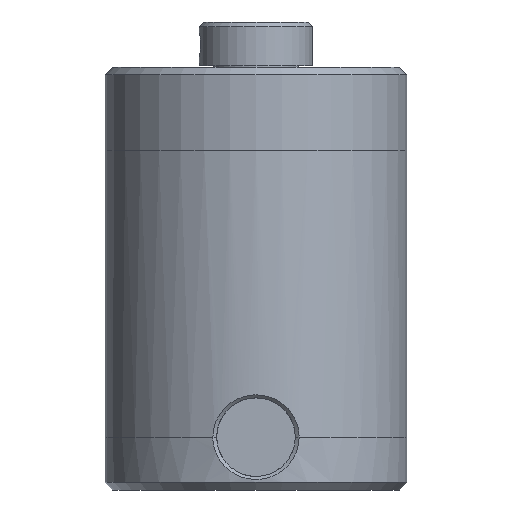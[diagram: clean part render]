
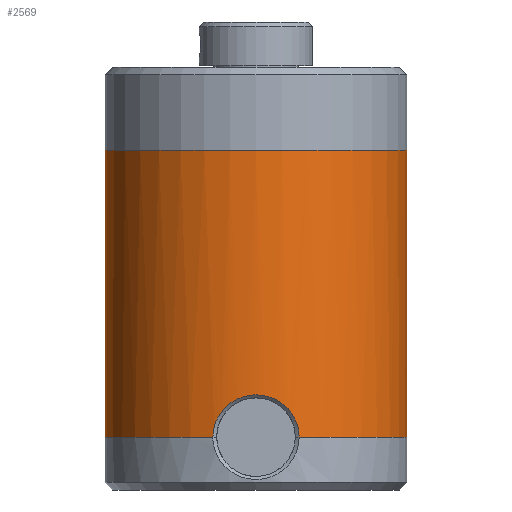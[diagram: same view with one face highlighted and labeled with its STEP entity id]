
A CAD part, front view. The second image highlights one B-rep face of the part: STEP entity #2569.
In plain terms, the highlighted cylindrical face has radius 10 mm (diameter 20 mm), a partial arc.
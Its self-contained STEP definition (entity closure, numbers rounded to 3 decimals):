
#12 = CARTESIAN_POINT ( 'NONE',  ( 1.012, -9.949, -24.88 ) ) ;
#168 = CARTESIAN_POINT ( 'NONE',  ( 2.784, -9.605, -26.863 ) ) ;
#307 = CARTESIAN_POINT ( 'NONE',  ( 10., 0., -27.5 ) ) ;
#359 = CARTESIAN_POINT ( 'NONE',  ( 0., 0., -27.5 ) ) ;
#447 = CARTESIAN_POINT ( 'NONE',  ( -1.889, -9.821, -25.391 ) ) ;
#568 = CARTESIAN_POINT ( 'NONE',  ( -10., 0., -8.5 ) ) ;
#611 = CARTESIAN_POINT ( 'NONE',  ( 0., 0., -27.5 ) ) ;
#615 = CARTESIAN_POINT ( 'NONE',  ( 2.857, -9.583, -27.316 ) ) ;
#747 = CIRCLE ( 'NONE', #4083, 10. ) ;
#789 = DIRECTION ( 'NONE',  ( -1., 0., 0. ) ) ;
#794 = ORIENTED_EDGE ( 'NONE', *, *, #1060, .T. ) ;
#815 = ORIENTED_EDGE ( 'NONE', *, *, #1294, .T. ) ;
#864 = FACE_OUTER_BOUND ( 'NONE', #2947, .T. ) ;
#867 = DIRECTION ( 'NONE',  ( 0., 0., -1. ) ) ;
#886 = CARTESIAN_POINT ( 'NONE',  ( -1.434, -9.898, -25.071 ) ) ;
#930 = EDGE_CURVE ( 'NONE', #1347, #5056, #4386, .T. ) ;
#1007 = ORIENTED_EDGE ( 'NONE', *, *, #1283, .T. ) ;
#1033 = CARTESIAN_POINT ( 'NONE',  ( 1.27, -9.921, -24.985 ) ) ;
#1060 = EDGE_CURVE ( 'NONE', #4040, #2689, #5440, .T. ) ;
#1114 = EDGE_CURVE ( 'NONE', #2426, #1347, #747, .T. ) ;
#1138 = EDGE_CURVE ( 'NONE', #4040, #3923, #5302, .T. ) ;
#1283 = EDGE_CURVE ( 'NONE', #2689, #5056, #2654, .T. ) ;
#1294 = EDGE_CURVE ( 'NONE', #2426, #3923, #5365, .T. ) ;
#1318 = CARTESIAN_POINT ( 'NONE',  ( -2.857, -9.583, -27.5 ) ) ;
#1331 = CARTESIAN_POINT ( 'NONE',  ( -0.749, -9.978, -24.773 ) ) ;
#1347 = VERTEX_POINT ( 'NONE', #2984 ) ;
#1391 = DIRECTION ( 'NONE',  ( 0., 0., 1. ) ) ;
#1470 = CARTESIAN_POINT ( 'NONE',  ( 1.745, -9.848, -25.275 ) ) ;
#1674 = DIRECTION ( 'NONE',  ( 0., 0., -1. ) ) ;
#1751 = CARTESIAN_POINT ( 'NONE',  ( -2.839, -9.589, -27.134 ) ) ;
#1771 = CARTESIAN_POINT ( 'NONE',  ( 0.189, -10., -24.7 ) ) ;
#1903 = VECTOR ( 'NONE', #2757, 1000. ) ;
#1923 = CARTESIAN_POINT ( 'NONE',  ( 2.284, -9.739, -25.778 ) ) ;
#2153 = AXIS2_PLACEMENT_3D ( 'NONE', #611, #5487, #5038 ) ;
#2212 = CARTESIAN_POINT ( 'NONE',  ( -2.71, -9.626, -26.594 ) ) ;
#2227 = CARTESIAN_POINT ( 'NONE',  ( 0.652, -9.979, -24.772 ) ) ;
#2363 = CARTESIAN_POINT ( 'NONE',  ( 2.674, -9.636, -26.51 ) ) ;
#2426 = VERTEX_POINT ( 'NONE', #4966 ) ;
#2569 = ADVANCED_FACE ( 'NONE', ( #864 ), #4252, .T. ) ;
#2635 = CARTESIAN_POINT ( 'NONE',  ( -2.477, -9.689, -26.093 ) ) ;
#2653 = CARTESIAN_POINT ( 'NONE',  ( 0.922, -9.958, -24.848 ) ) ;
#2654 = CIRCLE ( 'NONE', #3849, 10. ) ;
#2689 = VERTEX_POINT ( 'NONE', #5274 ) ;
#2700 = ORIENTED_EDGE ( 'NONE', *, *, #1114, .F. ) ;
#2757 = DIRECTION ( 'NONE',  ( 0., 0., 1. ) ) ;
#2808 = CARTESIAN_POINT ( 'NONE',  ( 2.761, -9.611, -26.773 ) ) ;
#2947 = EDGE_LOOP ( 'NONE', ( #4258, #2700, #815, #4602, #794, #1007 ) ) ;
#2984 = CARTESIAN_POINT ( 'NONE',  ( -10., 0., -27.5 ) ) ;
#3072 = CARTESIAN_POINT ( 'NONE',  ( -2.857, -9.583, -27.316 ) ) ;
#3090 = CARTESIAN_POINT ( 'NONE',  ( -2.153, -9.767, -25.65 ) ) ;
#3219 = VECTOR ( 'NONE', #1391, 1000. ) ;
#3258 = CARTESIAN_POINT ( 'NONE',  ( 2.839, -9.589, -27.133 ) ) ;
#3442 = DIRECTION ( 'NONE',  ( 0., 0., -1. ) ) ;
#3510 = CARTESIAN_POINT ( 'NONE',  ( 0., 0., -8.5 ) ) ;
#3525 = CARTESIAN_POINT ( 'NONE',  ( -1.743, -9.848, -25.274 ) ) ;
#3694 = CARTESIAN_POINT ( 'NONE',  ( 2.857, -9.583, -27.5 ) ) ;
#3849 = AXIS2_PLACEMENT_3D ( 'NONE', #3510, #867, #3948 ) ;
#3923 = VERTEX_POINT ( 'NONE', #5124 ) ;
#3948 = DIRECTION ( 'NONE',  ( -1., 0., 0. ) ) ;
#3967 = CARTESIAN_POINT ( 'NONE',  ( -1.271, -9.92, -24.986 ) ) ;
#4040 = VERTEX_POINT ( 'NONE', #307 ) ;
#4045 = AXIS2_PLACEMENT_3D ( 'NONE', #4320, #1674, #4772 ) ;
#4083 = AXIS2_PLACEMENT_3D ( 'NONE', #359, #3442, #789 ) ;
#4110 = CARTESIAN_POINT ( 'NONE',  ( 1.434, -9.898, -25.071 ) ) ;
#4252 = CYLINDRICAL_SURFACE ( 'NONE', #2153, 10. ) ;
#4258 = ORIENTED_EDGE ( 'NONE', *, *, #930, .F. ) ;
#4320 = CARTESIAN_POINT ( 'NONE',  ( 0., 0., -27.5 ) ) ;
#4386 = LINE ( 'NONE', #4473, #3219 ) ;
#4413 = CARTESIAN_POINT ( 'NONE',  ( -0.377, -10., -24.7 ) ) ;
#4473 = CARTESIAN_POINT ( 'NONE',  ( -10., 0., -27.5 ) ) ;
#4564 = CARTESIAN_POINT ( 'NONE',  ( 1.89, -9.821, -25.393 ) ) ;
#4602 = ORIENTED_EDGE ( 'NONE', *, *, #1138, .F. ) ;
#4772 = DIRECTION ( 'NONE',  ( -1., 0., 0. ) ) ;
#4850 = CARTESIAN_POINT ( 'NONE',  ( -2.765, -9.61, -26.771 ) ) ;
#4864 = CARTESIAN_POINT ( 'NONE',  ( 0.376, -9.995, -24.718 ) ) ;
#4966 = CARTESIAN_POINT ( 'NONE',  ( -2.857, -9.583, -27.5 ) ) ;
#5018 = CARTESIAN_POINT ( 'NONE',  ( 2.495, -9.685, -26.087 ) ) ;
#5038 = DIRECTION ( 'NONE',  ( 1., 0., 0. ) ) ;
#5056 = VERTEX_POINT ( 'NONE', #568 ) ;
#5124 = CARTESIAN_POINT ( 'NONE',  ( 2.857, -9.583, -27.5 ) ) ;
#5274 = CARTESIAN_POINT ( 'NONE',  ( 10., 0., -8.5 ) ) ;
#5300 = CARTESIAN_POINT ( 'NONE',  ( -2.567, -9.665, -26.257 ) ) ;
#5302 = CIRCLE ( 'NONE', #4045, 10. ) ;
#5314 = CARTESIAN_POINT ( 'NONE',  ( 0.742, -9.973, -24.795 ) ) ;
#5365 = B_SPLINE_CURVE_WITH_KNOTS ( 'NONE', 3,
 ( #1318, #3072, #1751, #4850, #2212, #5300, #2635, #5751, #3090, #447, #3525, #886, #3967, #1331, #4413, #1771, #4864, #2227, #5314, #2653, #12, #1033, #4110, #1470, #4564, #1923, #5018, #2363, #5470, #2808, #168, #3258, #615, #3694 ),
 .UNSPECIFIED., .F., .F.,
 ( 4, 2, 2, 2, 2, 2, 2, 2, 2, 2, 2, 2, 2, 2, 2, 2, 4 ),
 ( 0., 0.063, 0.125, 0.188, 0.25, 0.313, 0.375, 0.5, 0.563, 0.594, 0.625, 0.688, 0.75, 0.875, 0.906, 0.938, 1. ),
 .UNSPECIFIED. ) ;
#5418 = CARTESIAN_POINT ( 'NONE',  ( 10., 0., -27.5 ) ) ;
#5440 = LINE ( 'NONE', #5418, #1903 ) ;
#5470 = CARTESIAN_POINT ( 'NONE',  ( 2.706, -9.627, -26.595 ) ) ;
#5487 = DIRECTION ( 'NONE',  ( 0., 0., 1. ) ) ;
#5751 = CARTESIAN_POINT ( 'NONE',  ( -2.27, -9.739, -25.79 ) ) ;
